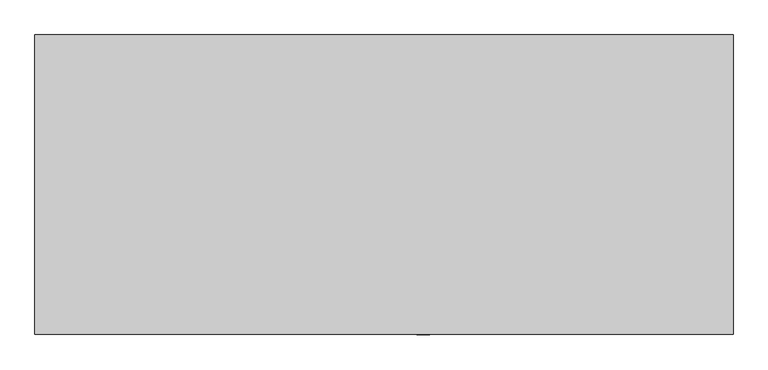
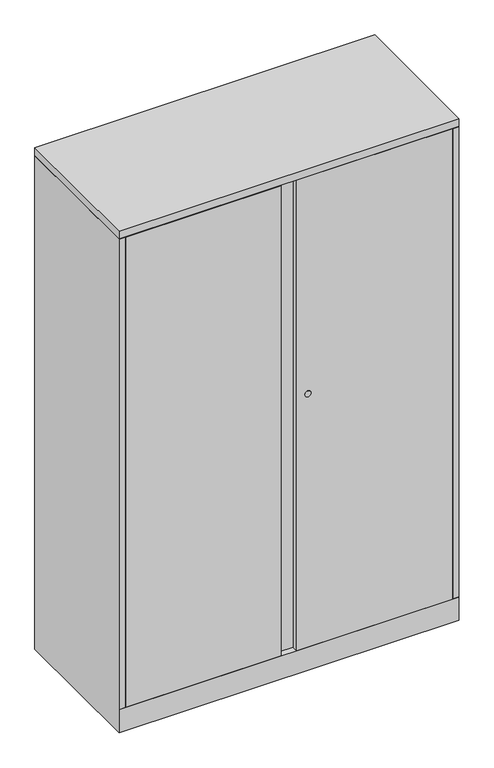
"""IFC4 building model written with IfcOpenShell, lengths in millimetres: furniture geometry, Steelcase - Universal Storage - Cabinet - Storage - 66H-84H - Flush Steel : 65 1/2H x 18D x 42W."""

from ifc_helpers import new_model, si_unit, point, frame, frame_2d, origin, place, context, project, spatial, polyline, circle_curve, trimmed, segment, composite_curve, outline, extrude, faceted_brep, source, transform, mapped, element, save


def furniture_c4f33ed9(model_context):
    return source(origin(), model_context, "Body", "SolidModel", [
        extrude(outline(polyline([(1066.8, 0.0), (1066.8, -457.2), (0.0, -457.2), (0.0, 0.0), (1066.8, 0.0)])), frame((0.0, 0.0, 1638.3), z_axis=(0.0, 0.0, 1.0), x_axis=(1.0, 0.0, 0.0)), (0.0, 0.0, 1.0), 25.4000484),
        extrude(outline(composite_curve([segment(trimmed(circle_curve(frame_2d((917.575, 593.2109835)), 9.7167829), [point((917.575, 602.9277664))], [point((917.575, 583.4942006))], False, "CARTESIAN"), True, "CONTINUOUS"), segment(trimmed(circle_curve(frame_2d((917.575, 593.2109835)), 9.7167829), [point((917.575, 583.4942006))], [point((917.575, 602.9277664))], False, "CARTESIAN"), True, "CONTINUOUS")], self_intersect=False)), frame((0.0, -457.8695275, 0.0), z_axis=(0.0, 1.0, 0.0), x_axis=(0.0, 0.0, 1.0)), (0.0, 0.0, 1.0), 0.6695275),
        extrude(outline(polyline([(20.8280006, -431.673866), (1045.972, -431.673866), (1045.972, -457.2), (557.53, -457.2), (557.53, -438.0238781), (509.27, -438.0238781), (509.27, -457.2), (20.8280006, -457.2), (20.8280006, -431.673866)])), frame((0.0, 0.0, 77.724), z_axis=(0.0, 0.0, 1.0), x_axis=(1.0, 0.0, 0.0)), (0.0, 0.0, 1.0), 1559.052),
        faceted_brep([(1066.8, 0.0, 0.0), (1066.8, -457.2, 0.0), (0.0, -457.2, 0.0), (0.0, 0.0, 0.0), (0.0, 0.0, 1636.776), (1066.8, 0.0, 1636.776), (0.0, -457.2, 76.2), (0.0, -457.2, 77.724), (0.0, -457.2, 1636.776), (1066.8, -457.2, 76.2), (1066.8, -457.2, 1636.776), (1066.8, -457.2, 77.724), (1041.4000242, -25.4000008, 1636.776), (1041.4000242, -430.1498674, 1636.776), (1045.972, -430.1498674, 1636.776), (1045.972, -431.6738781, 1636.776), (1047.496, -431.6738781, 1636.776), (1047.496, -457.2, 1636.776), (19.304, -457.2, 1636.776), (19.304, -431.673866, 1636.776), (20.8280006, -431.673866, 1636.776), (20.8280006, -430.1498674, 1636.776), (25.4000008, -430.1498674, 1636.776), (25.4000008, -25.4000008, 1636.776), (19.304, -457.2, 77.724), (19.304, -437.896, 77.724), (1047.496, -457.2, 77.724), (1047.496, -437.7698418, 77.724), (1041.4000242, -25.4000008, 77.724), (1041.4000242, -430.1498674, 77.724), (1045.972, -430.1498674, 77.724), (1045.972, -431.6738781, 77.724), (1047.496, -431.6738781, 77.724), (19.304, -431.673866, 77.724), (20.8280006, -431.673866, 77.724), (20.8280006, -430.1498674, 77.724), (25.4000008, -430.1498674, 77.724), (25.4000008, -25.4000008, 77.724), (25.526134, -431.673866, 77.724), (1041.4000242, -431.673866, 77.724)], [[[0, 1, 2, 3]], [[0, 3, 4, 5]], [[4, 3, 2, 6, 7, 8]], [[2, 1, 9, 6]], [[1, 0, 5, 10, 11, 9]], [[12, 13, 14, 15, 16, 17, 10, 5, 4, 8, 18, 19, 20, 21, 22, 23]], [[24, 7, 25]], [[11, 26, 27]], [[13, 12, 28, 29]], [[14, 13, 29, 30]], [[15, 14, 30, 31]], [[16, 15, 31, 32]], [[17, 16, 32, 27, 26]], [[10, 17, 26, 11]], [[18, 8, 7, 24]], [[19, 18, 24, 25, 33]], [[20, 19, 33, 34]], [[21, 20, 34, 35]], [[22, 21, 35, 36]], [[23, 22, 36, 37]], [[12, 23, 37, 28]], [[38, 39, 27, 32, 31, 30, 29, 28, 37, 36, 35, 34, 33, 25]], [[7, 6, 38, 25]], [[39, 38, 6, 9]], [[39, 9, 11, 27]]]),
    ])


if __name__ == "__main__":
    model = new_model("IFC4")
    model_context = context("Model", 3, world=origin())
    ifc_project = project(units=[si_unit("LENGTHUNIT", "METRE", prefix="MILLI")], contexts=[model_context])
    site = spatial("IfcSite", under=ifc_project)
    building = spatial("IfcBuilding", under=site)
    placement = place(None, origin())
    furniture_shape = furniture_c4f33ed9(model_context)
    element("IfcFurniture", 1, ObjectType="Steelcase - Universal Storage - Cabinet - Storage - 66H-84H - Flush Steel : 65 1/2H x 18D x 42W", at=placement, inside=building, context=model_context, shape_type="MappedRepresentation", body=[
        mapped(furniture_shape, transform((0.0, 0.0, 0.0), x_axis=(1.0, 0.0, 0.0), y_axis=(0.0, 1.0, 0.0), z_axis=(0.0, 0.0, 1.0))),
    ])
    save(model, "model.ifc")
